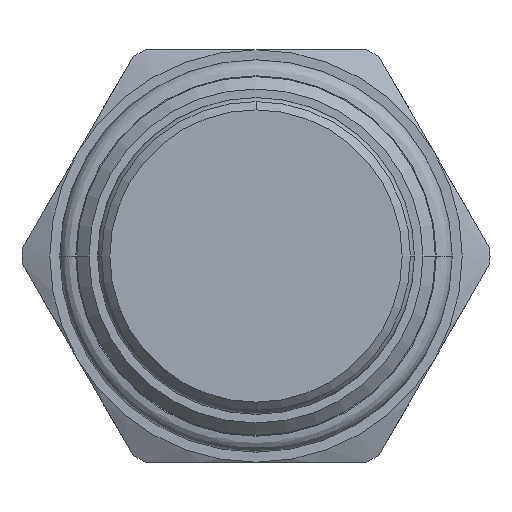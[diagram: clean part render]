
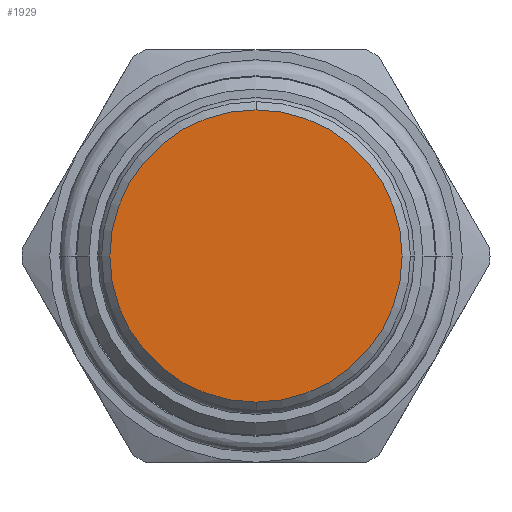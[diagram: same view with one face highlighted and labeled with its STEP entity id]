
A CAD part, front view. The second image highlights one B-rep face of the part: STEP entity #1929.
In plain terms, the highlighted planar face has unit normal (0, -1, 0).
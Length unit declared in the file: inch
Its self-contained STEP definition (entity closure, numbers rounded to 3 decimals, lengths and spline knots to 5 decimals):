
#786=CARTESIAN_POINT('',(0.,-1.758,0.));
#787=DIRECTION('',(0.,-1.,0.));
#788=DIRECTION('',(0.,0.,-1.));
#789=AXIS2_PLACEMENT_3D('',#786,#787,#788);
#796=CARTESIAN_POINT('',(0.,-1.758,0.));
#797=DIRECTION('',(0.,-1.,0.));
#798=DIRECTION('',(0.,0.,1.));
#799=AXIS2_PLACEMENT_3D('',#796,#797,#798);
#881=CARTESIAN_POINT('',(0.,-1.758,-0.5315));
#882=CARTESIAN_POINT('',(0.,-1.758,0.5315));
#883=VERTEX_POINT('',#881);
#884=VERTEX_POINT('',#882);
#1919=CARTESIAN_POINT('',(0.,-1.758,0.));
#1920=DIRECTION('',(0.,-1.,0.));
#1921=DIRECTION('',(0.,0.,-1.));
#1922=AXIS2_PLACEMENT_3D('',#1919,#1920,#1921);
#1923=PLANE('',#1922);
#1924=ORIENTED_EDGE('',*,*,#1909,.F.);
#1926=ORIENTED_EDGE('',*,*,#1925,.F.);
#1927=EDGE_LOOP('',(#1924,#1926));
#1928=FACE_OUTER_BOUND('',#1927,.F.);
#1929=ADVANCED_FACE('',(#1928),#1923,.T.);
#790=CIRCLE('',#789,0.5315);
#800=CIRCLE('',#799,0.5315);
#1909=EDGE_CURVE('',#883,#884,#790,.T.);
#1925=EDGE_CURVE('',#884,#883,#800,.T.);
